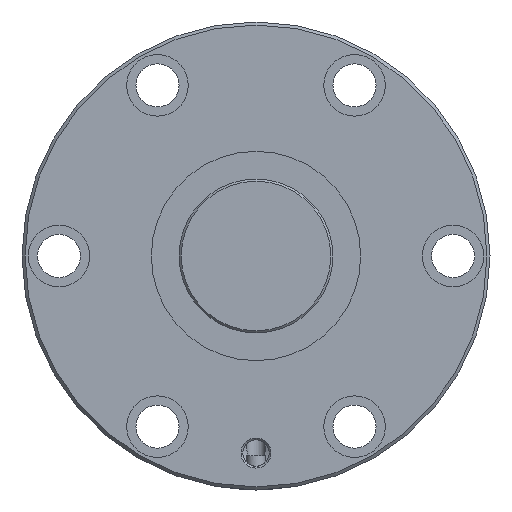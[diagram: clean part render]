
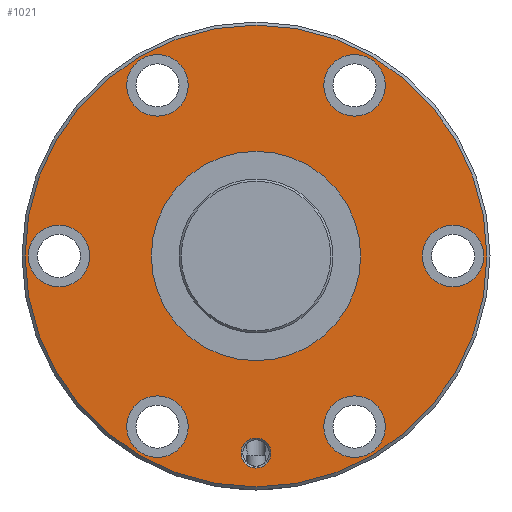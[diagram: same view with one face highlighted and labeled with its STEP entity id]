
A CAD part, left-side view. The second image highlights one B-rep face of the part: STEP entity #1021.
In plain terms, the highlighted planar face has unit normal (-1, 0, 0).
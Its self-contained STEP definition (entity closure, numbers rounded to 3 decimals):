
#162=ORIENTED_EDGE('',*,*,#385,.T.);
#163=ORIENTED_EDGE('',*,*,#386,.T.);
#164=ORIENTED_EDGE('',*,*,#387,.T.);
#165=ORIENTED_EDGE('',*,*,#388,.T.);
#166=ORIENTED_EDGE('',*,*,#389,.T.);
#167=ORIENTED_EDGE('',*,*,#390,.T.);
#168=ORIENTED_EDGE('',*,*,#391,.T.);
#169=ORIENTED_EDGE('',*,*,#392,.T.);
#170=ORIENTED_EDGE('',*,*,#384,.F.);
#384=EDGE_CURVE('',#499,#499,#593,.T.);
#385=EDGE_CURVE('',#500,#500,#594,.T.);
#386=EDGE_CURVE('',#501,#501,#595,.F.);
#387=EDGE_CURVE('',#502,#502,#596,.T.);
#388=EDGE_CURVE('',#503,#503,#597,.T.);
#389=EDGE_CURVE('',#504,#504,#598,.T.);
#390=EDGE_CURVE('',#505,#505,#599,.T.);
#391=EDGE_CURVE('',#506,#506,#600,.T.);
#392=EDGE_CURVE('',#507,#507,#601,.T.);
#499=VERTEX_POINT('',#1711);
#500=VERTEX_POINT('',#1714);
#501=VERTEX_POINT('',#1716);
#502=VERTEX_POINT('',#1718);
#503=VERTEX_POINT('',#1720);
#504=VERTEX_POINT('',#1722);
#505=VERTEX_POINT('',#1724);
#506=VERTEX_POINT('',#1726);
#507=VERTEX_POINT('',#1728);
#593=CIRCLE('',#1136,75.);
#594=CIRCLE('',#1138,34.);
#595=CIRCLE('',#1139,10.);
#596=CIRCLE('',#1140,4.864);
#597=CIRCLE('',#1141,10.);
#598=CIRCLE('',#1142,10.);
#599=CIRCLE('',#1143,10.);
#600=CIRCLE('',#1144,10.);
#601=CIRCLE('',#1145,10.);
#682=EDGE_LOOP('',(#162));
#683=EDGE_LOOP('',(#163));
#684=EDGE_LOOP('',(#164));
#685=EDGE_LOOP('',(#165));
#686=EDGE_LOOP('',(#166));
#687=EDGE_LOOP('',(#167));
#688=EDGE_LOOP('',(#168));
#689=EDGE_LOOP('',(#169));
#690=EDGE_LOOP('',(#170));
#842=FACE_BOUND('',#682,.T.);
#843=FACE_BOUND('',#683,.T.);
#844=FACE_BOUND('',#684,.T.);
#845=FACE_BOUND('',#685,.T.);
#846=FACE_BOUND('',#686,.T.);
#847=FACE_BOUND('',#687,.T.);
#848=FACE_BOUND('',#688,.T.);
#849=FACE_BOUND('',#689,.T.);
#850=FACE_BOUND('',#690,.T.);
#984=PLANE('',#1137);
#1021=ADVANCED_FACE('',(#842,#843,#844,#845,#846,#847,#848,#849,#850),#984,
 .T.);
#1136=AXIS2_PLACEMENT_3D('',#1710,#1322,#1323);
#1137=AXIS2_PLACEMENT_3D('',#1712,#1324,#1325);
#1138=AXIS2_PLACEMENT_3D('',#1713,#1326,#1327);
#1139=AXIS2_PLACEMENT_3D('',#1715,#1328,#1329);
#1140=AXIS2_PLACEMENT_3D('',#1717,#1330,#1331);
#1141=AXIS2_PLACEMENT_3D('',#1719,#1332,#1333);
#1142=AXIS2_PLACEMENT_3D('',#1721,#1334,#1335);
#1143=AXIS2_PLACEMENT_3D('',#1723,#1336,#1337);
#1144=AXIS2_PLACEMENT_3D('',#1725,#1338,#1339);
#1145=AXIS2_PLACEMENT_3D('',#1727,#1340,#1341);
#1322=DIRECTION('',(1.,0.,0.));
#1323=DIRECTION('',(0.,0.,-1.));
#1324=DIRECTION('',(-1.,0.,0.));
#1325=DIRECTION('',(0.,0.,1.));
#1326=DIRECTION('',(1.,0.,0.));
#1327=DIRECTION('',(0.,0.,-1.));
#1328=DIRECTION('',(-1.,0.,0.));
#1329=DIRECTION('',(0.,0.,1.));
#1330=DIRECTION('',(1.,0.,0.));
#1331=DIRECTION('',(0.,0.,-1.));
#1332=DIRECTION('',(1.,0.,0.));
#1333=DIRECTION('',(0.,0.,-1.));
#1334=DIRECTION('',(1.,0.,0.));
#1335=DIRECTION('',(0.,0.,-1.));
#1336=DIRECTION('',(1.,0.,0.));
#1337=DIRECTION('',(0.,0.,-1.));
#1338=DIRECTION('',(1.,0.,0.));
#1339=DIRECTION('',(0.,0.,-1.));
#1340=DIRECTION('',(1.,0.,0.));
#1341=DIRECTION('',(0.,0.,-1.));
#1710=CARTESIAN_POINT('',(0.,0.,0.));
#1711=CARTESIAN_POINT('',(0.,0.,-75.));
#1712=CARTESIAN_POINT('',(0.,75.,0.));
#1713=CARTESIAN_POINT('',(0.,0.,0.));
#1714=CARTESIAN_POINT('',(0.,0.,-34.));
#1715=CARTESIAN_POINT('',(0.,64.,0.));
#1716=CARTESIAN_POINT('',(0.,64.,10.));
#1717=CARTESIAN_POINT('',(0.,0.,-64.));
#1718=CARTESIAN_POINT('',(0.,0.,-68.864));
#1719=CARTESIAN_POINT('',(0.,-64.,0.));
#1720=CARTESIAN_POINT('',(0.,-64.,-10.));
#1721=CARTESIAN_POINT('',(0.,32.,55.426));
#1722=CARTESIAN_POINT('',(0.,32.,45.426));
#1723=CARTESIAN_POINT('',(0.,-32.,-55.426));
#1724=CARTESIAN_POINT('',(0.,-32.,-65.426));
#1725=CARTESIAN_POINT('',(0.,-32.,55.426));
#1726=CARTESIAN_POINT('',(0.,-32.,45.426));
#1727=CARTESIAN_POINT('',(0.,32.,-55.426));
#1728=CARTESIAN_POINT('',(0.,32.,-65.426));
